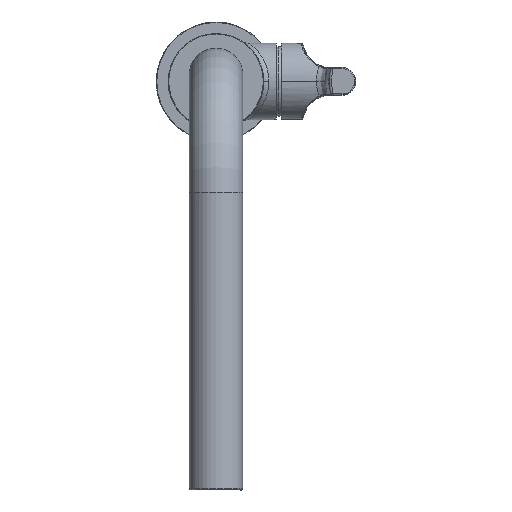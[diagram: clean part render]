
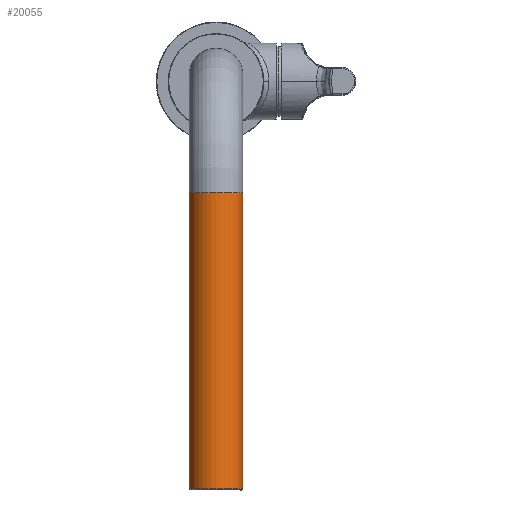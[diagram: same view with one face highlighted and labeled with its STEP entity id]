
A CAD part, top view. The second image highlights one B-rep face of the part: STEP entity #20055.
In plain terms, the highlighted cylindrical face has radius 11.25 mm (diameter 22.5 mm), a partial arc.
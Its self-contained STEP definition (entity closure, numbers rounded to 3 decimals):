
#3771=CARTESIAN_POINT('',(0.,-170.75,207.05));
#3772=DIRECTION('',(0.,1.,0.));
#3773=DIRECTION('',(-1.,0.,0.));
#3774=AXIS2_PLACEMENT_3D('',#3771,#3772,#3773);
#3776=CARTESIAN_POINT('',(0.,-170.75,207.05));
#3777=DIRECTION('',(0.,1.,0.));
#3778=DIRECTION('',(-1.,0.,0.001));
#3779=AXIS2_PLACEMENT_3D('',#3776,#3777,#3778);
#3781=CARTESIAN_POINT('',(0.,-170.75,207.05));
#3782=DIRECTION('',(0.,1.,0.));
#3783=DIRECTION('',(0.,0.,1.));
#3784=AXIS2_PLACEMENT_3D('',#3781,#3782,#3783);
#3791=DIRECTION('',(0.,1.,0.));
#3792=VECTOR('',#3791,124.);
#3793=CARTESIAN_POINT('',(-11.25,-170.75,207.05));
#3794=LINE('',#3793,#3792);
#3795=DIRECTION('',(0.,-1.,0.));
#3796=VECTOR('',#3795,124.);
#3797=CARTESIAN_POINT('',(11.25,-46.75,207.05));
#3798=LINE('',#3797,#3796);
#3809=CARTESIAN_POINT('',(0.,-46.75,207.05));
#3810=DIRECTION('',(0.,-1.,0.));
#3811=DIRECTION('',(1.,0.,0.));
#3812=AXIS2_PLACEMENT_3D('',#3809,#3810,#3811);
#3814=CARTESIAN_POINT('',(0.,-46.75,207.05));
#3815=DIRECTION('',(0.,-1.,0.));
#3816=DIRECTION('',(0.,0.,1.));
#3817=AXIS2_PLACEMENT_3D('',#3814,#3815,#3816);
#14882=CARTESIAN_POINT('',(-11.25,-170.75,207.05));
#14883=VERTEX_POINT('',#14882);
#14892=CARTESIAN_POINT('',(-11.25,-46.75,207.05));
#14893=VERTEX_POINT('',#14892);
#14912=CARTESIAN_POINT('',(11.25,-170.75,207.05));
#14913=VERTEX_POINT('',#14912);
#14914=CARTESIAN_POINT('',(0.,-170.75,218.3));
#14915=VERTEX_POINT('',#14914);
#14916=CARTESIAN_POINT('',(-11.25,-170.75,207.065));
#14917=VERTEX_POINT('',#14916);
#14918=CARTESIAN_POINT('',(11.25,-46.75,207.05));
#14919=CARTESIAN_POINT('',(0.,-46.75,218.3));
#14920=VERTEX_POINT('',#14918);
#14921=VERTEX_POINT('',#14919);
#20038=CARTESIAN_POINT('',(0.,-46.75,207.05));
#20039=DIRECTION('',(0.,-1.,0.));
#20040=DIRECTION('',(0.,0.,-1.));
#20041=AXIS2_PLACEMENT_3D('',#20038,#20039,#20040);
#20042=CYLINDRICAL_SURFACE('',#20041,11.25);
#20043=ORIENTED_EDGE('',*,*,#20025,.F.);
#20044=ORIENTED_EDGE('',*,*,#20023,.F.);
#20045=ORIENTED_EDGE('',*,*,#20021,.F.);
#20046=ORIENTED_EDGE('',*,*,#19420,.T.);
#20048=ORIENTED_EDGE('',*,*,#20047,.F.);
#20050=ORIENTED_EDGE('',*,*,#20049,.F.);
#20052=ORIENTED_EDGE('',*,*,#20051,.T.);
#20053=EDGE_LOOP('',(#20043,#20044,#20045,#20046,#20048,#20050,#20052));
#20054=FACE_OUTER_BOUND('',#20053,.F.);
#3775=CIRCLE('',#3774,11.25);
#3780=CIRCLE('',#3779,11.25);
#3785=CIRCLE('',#3784,11.25);
#3813=CIRCLE('',#3812,11.25);
#3818=CIRCLE('',#3817,11.25);
#19420=EDGE_CURVE('',#14883,#14893,#3794,.T.);
#20021=EDGE_CURVE('',#14883,#14917,#3775,.T.);
#20023=EDGE_CURVE('',#14917,#14915,#3780,.T.);
#20025=EDGE_CURVE('',#14915,#14913,#3785,.T.);
#20047=EDGE_CURVE('',#14921,#14893,#3818,.T.);
#20049=EDGE_CURVE('',#14920,#14921,#3813,.T.);
#20051=EDGE_CURVE('',#14920,#14913,#3798,.T.);
#20055=ADVANCED_FACE('',(#20054),#20042,.T.);
